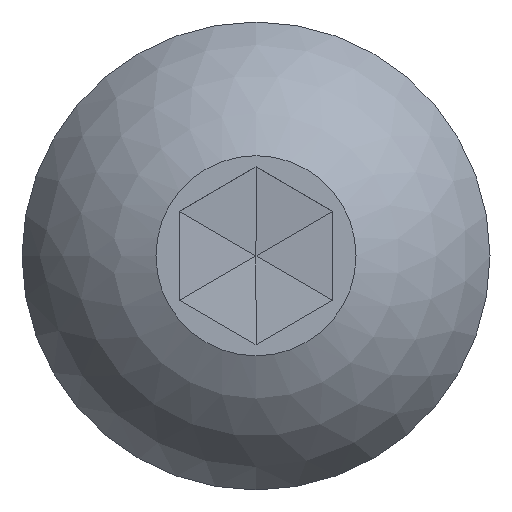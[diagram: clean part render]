
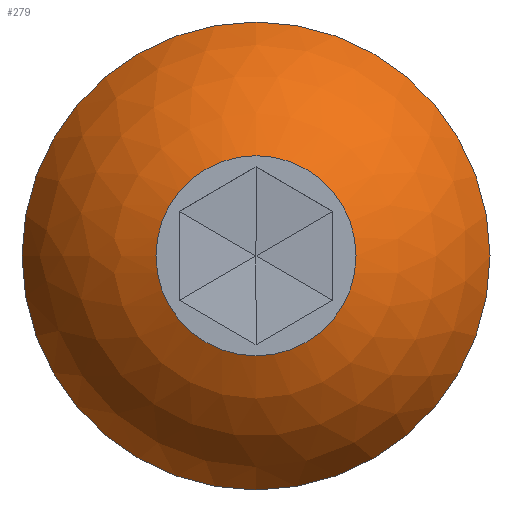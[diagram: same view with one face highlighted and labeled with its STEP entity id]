
A CAD part, top view. The second image highlights one B-rep face of the part: STEP entity #279.
In plain terms, the highlighted spherical face has radius 4.116 mm.
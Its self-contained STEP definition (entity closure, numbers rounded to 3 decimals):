
#19=SPHERICAL_SURFACE('',#320,4.116);
#57=FACE_OUTER_BOUND('',#78,.T.);
#78=EDGE_LOOP('',(#256,#257,#258,#259));
#136=CIRCLE('',#303,3.8);
#137=CIRCLE('',#313,1.625);
#138=CIRCLE('',#321,4.116);
#143=VERTEX_POINT('',#424);
#153=VERTEX_POINT('',#460);
#164=EDGE_CURVE('',#143,#143,#136,.T.);
#181=EDGE_CURVE('',#153,#153,#137,.T.);
#191=EDGE_CURVE('',#153,#143,#138,.T.);
#256=ORIENTED_EDGE('',*,*,#181,.T.);
#257=ORIENTED_EDGE('',*,*,#191,.T.);
#258=ORIENTED_EDGE('',*,*,#164,.F.);
#259=ORIENTED_EDGE('',*,*,#191,.F.);
#279=ADVANCED_FACE('',(#57),#19,.T.);
#303=AXIS2_PLACEMENT_3D('',#425,#344,#345);
#313=AXIS2_PLACEMENT_3D('',#461,#380,#381);
#320=AXIS2_PLACEMENT_3D('',#481,#403,#404);
#321=AXIS2_PLACEMENT_3D('',#482,#405,#406);
#344=DIRECTION('center_axis',(0.,0.,-1.));
#345=DIRECTION('ref_axis',(1.,0.,0.));
#380=DIRECTION('center_axis',(0.,0.,-1.));
#381=DIRECTION('ref_axis',(1.,0.,0.));
#403=DIRECTION('center_axis',(0.,0.,1.));
#404=DIRECTION('ref_axis',(1.,0.,0.));
#405=DIRECTION('center_axis',(0.,-1.,0.));
#406=DIRECTION('ref_axis',(-1.,0.,0.));
#424=CARTESIAN_POINT('',(-3.8,0.,0.));
#425=CARTESIAN_POINT('Origin',(0.,0.,0.));
#460=CARTESIAN_POINT('',(-1.625,0.,2.2));
#461=CARTESIAN_POINT('Origin',(0.,0.,2.2));
#481=CARTESIAN_POINT('Origin',(0.,0.,-1.582));
#482=CARTESIAN_POINT('Origin',(0.,0.,-1.582));
